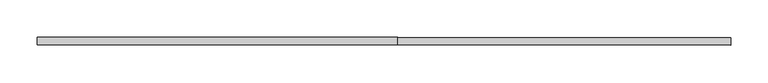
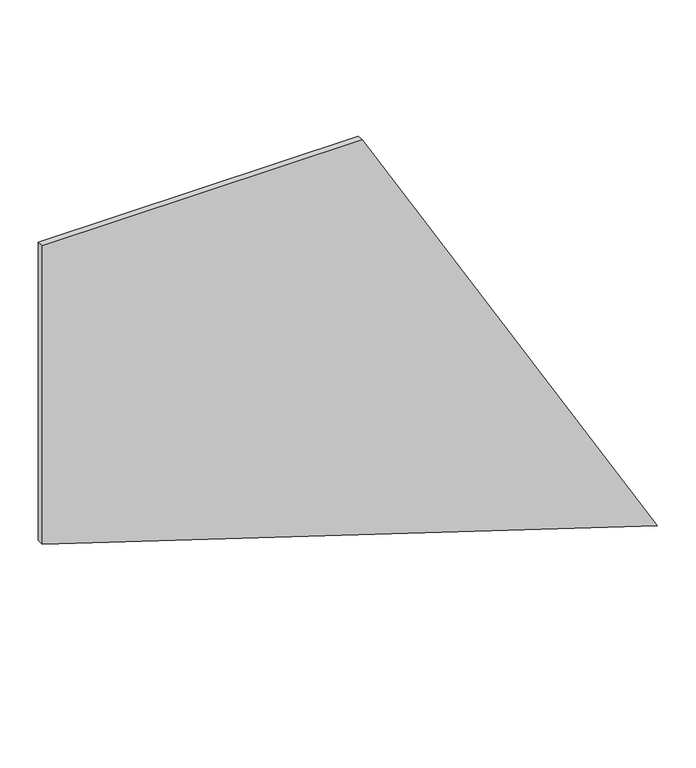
"""IFC4 building model written with IfcOpenShell, lengths in millimetres: plate geometry, 系統嵌板 : 玻璃 1.0cm."""

from ifc_helpers import new_model, si_unit, frame, origin, place, context, project, spatial, polyline, outline, extrude, source, transform, mapped, element, save


def plate_837821df(model_context):
    return source(origin(), model_context, "Body", "SweptSolid", [
        extrude(outline(polyline([(294.4213373, -462.1798674), (0.0, 462.1798674), (768.333618, 18.5822462), (768.333618, -462.1798674), (294.4213373, -462.1798674)])), frame((0.0, -5.0, 0.0), z_axis=(0.0, 1.0, 0.0), x_axis=(0.0, 0.0, 1.0)), (0.0, 0.0, 1.0), 10.0),
    ])


if __name__ == "__main__":
    model = new_model("IFC4")
    model_context = context("Model", 3, world=origin())
    ifc_project = project(units=[si_unit("LENGTHUNIT", "METRE", prefix="MILLI")], contexts=[model_context])
    site = spatial("IfcSite", under=ifc_project)
    building = spatial("IfcBuilding", under=site)
    placement = place(None, origin())
    plate_shape = plate_837821df(model_context)
    element("IfcPlate", 1, ObjectType="系統嵌板 : 玻璃 1.0cm", at=placement, inside=building, context=model_context, shape_type="MappedRepresentation", body=[
        mapped(plate_shape, transform((0.0, 0.0, 0.0), x_axis=(1.0, 0.0, 0.0), y_axis=(0.0, 1.0, 0.0), z_axis=(0.0, 0.0, 1.0))),
    ])
    save(model, "model.ifc")
